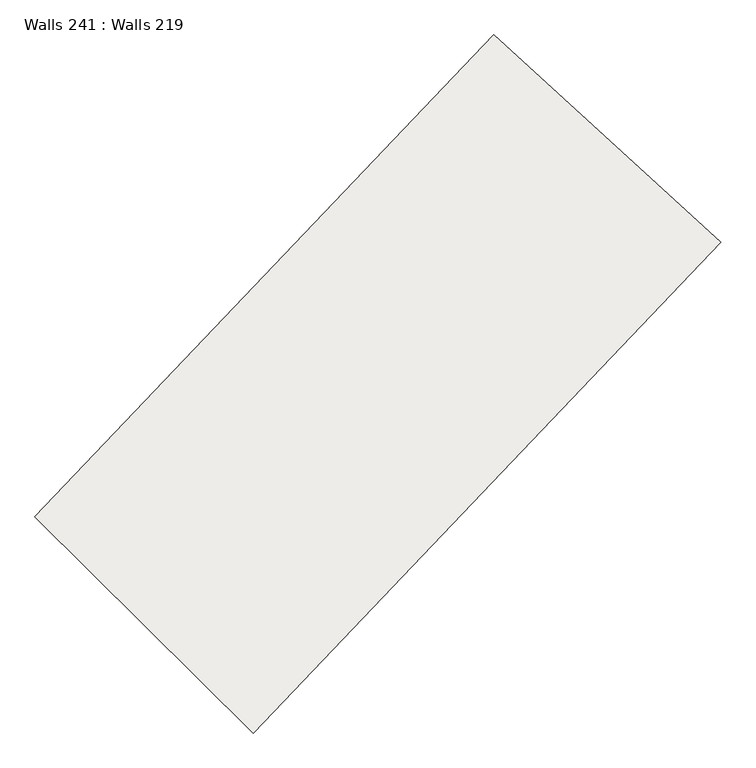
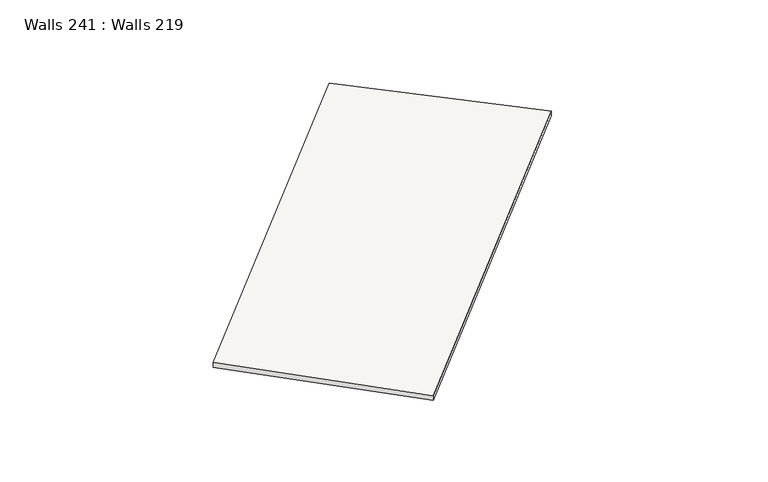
"""IFC4 building model written with IfcOpenShell, lengths in millimetres: slab geometry, Walls 241 : Walls 219."""

from ifc_helpers import new_model, si_unit, frame, origin, place, context, project, spatial, source, transform, mapped, element, save
from ifc_brep_helpers import plane_surface, spline_curve, spline_surface, advanced_brep


def walls_241_walls_219_dd3c113c(model_context):
    return source(origin(), model_context, "Body", "AdvancedBrep", [
        advanced_brep(
        [(376390.7596283, 246715.151751, 644577.0), (376390.7596283, 246715.151751, 644477.0), (379230.0441313, 243897.6238432, 644477.0), (379230.0441313, 243897.6238432, 644577.0), (382366.9941416, 252986.6201326, 644689.0), (385318.0534302, 250286.3888324, 644689.0), (385318.0534302, 250286.3888324, 644589.0), (382366.9941416, 252986.6201326, 644589.0)],
        [
            (0, 1),
            (1, 2),
            (2, 3),
            (3, 0),
            (4, 5),
            (5, 6),
            (6, 7),
            (7, 4),
            (4, 0, spline_curve(3, [(382366.9941416, 252986.6201326, 644689.0), (380417.530227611, 250856.067986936, 644651.666666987), (378424.907214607, 248765.006768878, 644614.333333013), (376390.7596283, 246715.151751, 644577.0)], [4, 4], [0.0, 28.691591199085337])),
            (3, 5, spline_curve(3, [(379230.0441313, 243897.6238432, 644577.0), (381302.236812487, 245985.817735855, 644614.333333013), (383332.128278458, 248115.988516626, 644651.666666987), (385318.0534302, 250286.3888324, 644689.0)], [4, 4], [0.0, 28.691591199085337])),
            (7, 1, spline_curve(3, [(382366.9941416, 252986.6201326, 644589.0), (380417.530227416, 250856.067986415, 644551.66666696), (378424.907215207, 248765.006768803, 644514.33333304), (376390.7596283, 246715.151751, 644477.0)], [4, 4], [0.0, 28.425808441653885])),
            (6, 2, spline_curve(3, [(385318.0534302, 250286.3888324, 644589.0), (383332.128278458, 248115.988516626, 644551.666666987), (381302.236812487, 245985.817735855, 644514.333333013), (379230.0441313, 243897.6238432, 644477.0)], [4, 4], [0.0, 28.691591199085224])),
        ],
        [
            plane_surface(frame((377810.4018798, 245306.3877971, 644527.0), z_axis=(-0.7043819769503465, -0.7098211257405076, 0.0), x_axis=(0.0, 0.0, -1.0))),
            plane_surface(frame((383842.5237859, 251636.5044825, 644639.0), z_axis=(0.6750578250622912, 0.7377648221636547, 0.0), x_axis=(0.0, 0.0, -1.0))),
            spline_surface(3, 3, [[(385318.0534302, 250286.3888324, 644689.0), (383332.128277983, 248115.988516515, 644651.666666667), (381302.236812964, 245985.81773541, 644614.333333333), (379230.0441313, 243897.6238432, 644577.0)], [(384334.367000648, 251186.465932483, 644689.0), (382360.595594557, 249029.348339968, 644651.666666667), (380343.126946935, 246912.214079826, 644614.333333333), (378283.615963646, 244836.799812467, 644577.0)], [(383350.680571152, 252086.543032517, 644689.0), (381389.062911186, 249942.708163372, 644651.666666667), (379384.017080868, 247838.610424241, 644614.333333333), (377337.187795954, 245775.975781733, 644577.0)], [(382366.9941416, 252986.6201326, 644689.0), (380417.53022776, 250856.067986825, 644651.666666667), (378424.907214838, 248765.006768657, 644614.333333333), (376390.7596283, 246715.151751, 644577.0)]], [4, 4], [4, 4], [0.0, 13.123359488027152], [0.0, 28.691591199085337]),
            spline_surface(3, 3, [[(382366.9941416, 252986.6201326, 644689.0), (380417.53022776, 250856.067986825, 644651.666666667), (378424.907214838, 248765.006768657, 644614.333333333), (376390.7596283, 246715.151751, 644577.0)], [(382366.9941416, 252986.6201326, 644655.666666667), (380417.53022776, 250856.067986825, 644618.333333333), (378424.907214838, 248765.006768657, 644581.0), (376390.7596283, 246715.151751, 644543.666666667)], [(382366.9941416, 252986.6201326, 644622.333333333), (380417.53022776, 250856.067986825, 644585.0), (378424.907214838, 248765.006768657, 644547.666666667), (376390.7596283, 246715.151751, 644510.333333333)], [(382366.9941416, 252986.6201326, 644589.0), (380417.53022776, 250856.067986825, 644551.666666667), (378424.907214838, 248765.006768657, 644514.333333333), (376390.7596283, 246715.151751, 644477.0)]], [4, 4], [4, 4], [0.0, 0.3280839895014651], [0.0, 28.425808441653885]),
            spline_surface(3, 3, [[(382366.9941416, 252986.6201326, 644589.0), (380417.53022776, 250856.067986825, 644551.666666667), (378424.907214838, 248765.006768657, 644514.333333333), (376390.7596283, 246715.151751, 644477.0)], [(383350.680571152, 252086.543032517, 644589.0), (381389.062911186, 249942.708163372, 644551.666666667), (379384.017080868, 247838.610424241, 644514.333333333), (377337.187795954, 245775.975781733, 644477.0)], [(384334.367000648, 251186.465932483, 644589.0), (382360.595594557, 249029.348339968, 644551.666666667), (380343.126946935, 246912.214079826, 644514.333333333), (378283.615963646, 244836.799812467, 644477.0)], [(385318.0534302, 250286.3888324, 644589.0), (383332.128277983, 248115.988516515, 644551.666666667), (381302.236812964, 245985.81773541, 644514.333333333), (379230.0441313, 243897.6238432, 644477.0)]], [4, 4], [4, 4], [0.0, 13.123359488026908], [0.0, 28.691591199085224]),
            spline_surface(3, 3, [[(385318.0534302, 250286.3888324, 644589.0), (383332.128277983, 248115.988516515, 644551.666666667), (381302.236812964, 245985.81773541, 644514.333333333), (379230.0441313, 243897.6238432, 644477.0)], [(385318.0534302, 250286.3888324, 644622.333333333), (383332.128277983, 248115.988516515, 644585.0), (381302.236812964, 245985.81773541, 644547.666666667), (379230.0441313, 243897.6238432, 644510.333333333)], [(385318.0534302, 250286.3888324, 644655.666666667), (383332.128277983, 248115.988516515, 644618.333333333), (381302.236812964, 245985.81773541, 644581.0), (379230.0441313, 243897.6238432, 644543.666666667)], [(385318.0534302, 250286.3888324, 644689.0), (383332.128277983, 248115.988516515, 644651.666666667), (381302.236812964, 245985.81773541, 644614.333333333), (379230.0441313, 243897.6238432, 644577.0)]], [4, 4], [4, 4], [0.0, 0.3280839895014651], [0.0, 28.957374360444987]),
        ],
        [
            (0, [[1, 2, 3, 4]]),
            (1, [[5, 6, 7, 8]]),
            (2, [[-5, 9, -4, 10]]),
            (3, [[-8, 11, -1, -9]]),
            (4, [[-7, 12, -2, -11]]),
            (5, [[-6, -10, -3, -12]]),
        ],
    ),
    ])


if __name__ == "__main__":
    model = new_model("IFC4")
    model_context = context("Model", 3, world=origin())
    ifc_project = project(units=[si_unit("LENGTHUNIT", "METRE", prefix="MILLI")], contexts=[model_context])
    site = spatial("IfcSite", under=ifc_project)
    building = spatial("IfcBuilding", under=site)
    placement = place(None, origin())
    walls_241_walls_219_shape = walls_241_walls_219_dd3c113c(model_context)
    element("IfcSlab", 1, ObjectType="Walls 241 : Walls 219", at=placement, inside=building, context=model_context, shape_type="MappedRepresentation", body=[
        mapped(walls_241_walls_219_shape, transform((0.0, 0.0, 0.0), x_axis=(1.0, 0.0, 0.0), y_axis=(0.0, 1.0, 0.0), z_axis=(0.0, 0.0, 1.0))),
    ])
    save(model, "model.ifc")
